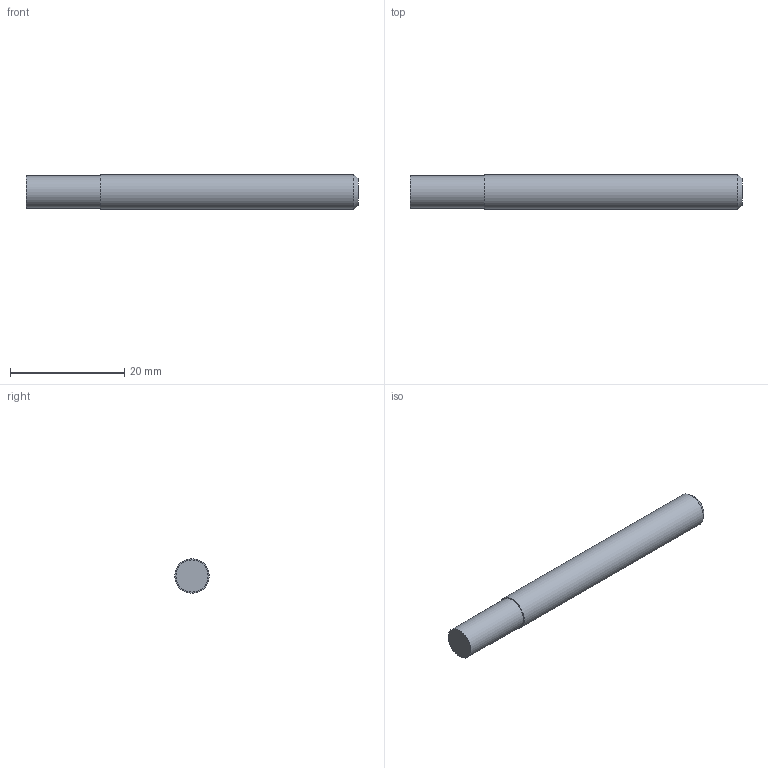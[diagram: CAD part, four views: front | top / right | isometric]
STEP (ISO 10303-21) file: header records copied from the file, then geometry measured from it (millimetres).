
FILE_DESCRIPTION(/* description */ ('STEP AP203'),/* implementation_level */ '2;1');
FILE_NAME(/* name */ 'P_MZ_FO_0178',/* time_stamp */ '2023-03-02T11:34:36+01:00',/* author */ ('License CC BY-ND 4.0'),/* organization */ ('CADENAS'),/* preprocessor_version */ 'ST-DEVELOPER v18.102',/* originating_system */ 'PARTsolutions',/* authorisation */ ' ');
FILE_SCHEMA (('CONFIG_CONTROL_DESIGN'));
Length unit declared in the file: millimetre
Products named in the file (1): P_MZ_FO_0178
Bounding box: 58 x 6 x 6 mm (x, y, z)
Volume: 1588.5 mm3; surface area: 1125.4 mm2
Topology: 1 solids, 1 shells, 6 faces, 8 edges, 5 vertices
Faces by surface type: plane 3, cylinder 2, cone 1
Full cylindrical faces by diameter (mm): 5.6 x1, 6 x1
Entity records: 180 total; most frequent: DIRECTION 24, CARTESIAN_POINT 17, AXIS2_PLACEMENT_3D 12, ORIENTED_EDGE 10, EDGE_LOOP 10, FACE_BOUND 10, STYLED_ITEM 6, PRESENTATION_STYLE_ASSIGNMENT 6
